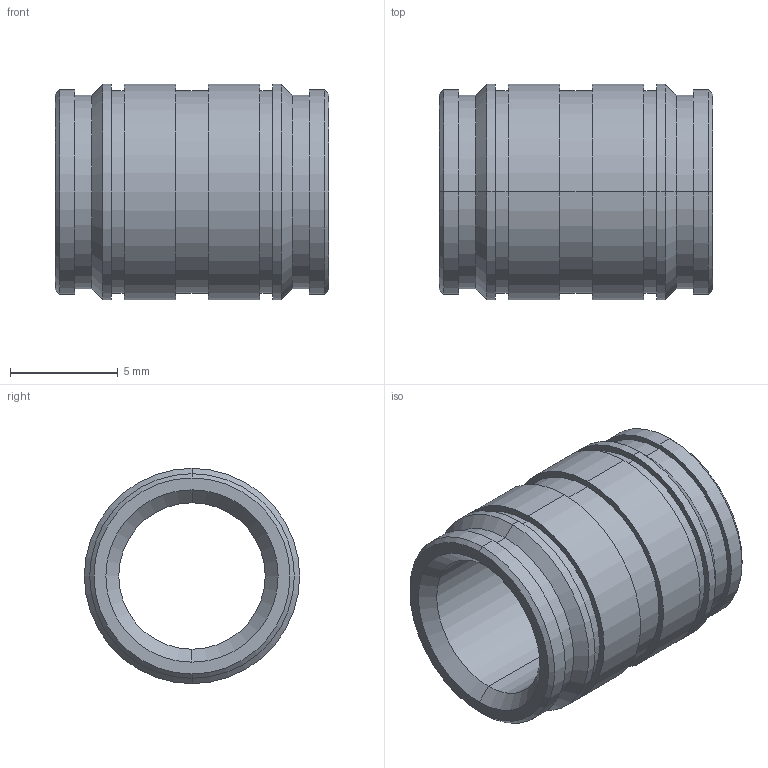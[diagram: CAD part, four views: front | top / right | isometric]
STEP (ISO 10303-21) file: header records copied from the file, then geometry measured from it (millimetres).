
FILE_DESCRIPTION (( 'STEP AP203' ), '1' );
FILE_NAME ('FSUK-DUO-M08-S.STEP', '2021-04-15T09:14:01', ( '' ), ( '' ), 'SwSTEP 2.0', 'SolidWorks 2021', '' );
FILE_SCHEMA (( 'CONFIG_CONTROL_DESIGN' ));
Length unit declared in the file: millimetre
Products named in the file (1): FSUK-DUO-M08-S
Bounding box: 12.7 x 10 x 10 mm (x, y, z)
Volume: 457 mm3; surface area: 785.5 mm2
Topology: 1 solids, 1 shells, 46 faces, 92 edges, 56 vertices
Faces by surface type: cylinder 24, cone 12, plane 10
Entity records: 1285 total; most frequent: DIRECTION 242, CARTESIAN_POINT 195, ORIENTED_EDGE 184, AXIS2_PLACEMENT_3D 103, EDGE_CURVE 92, CIRCLE 56, VERTEX_POINT 56, EDGE_LOOP 56
